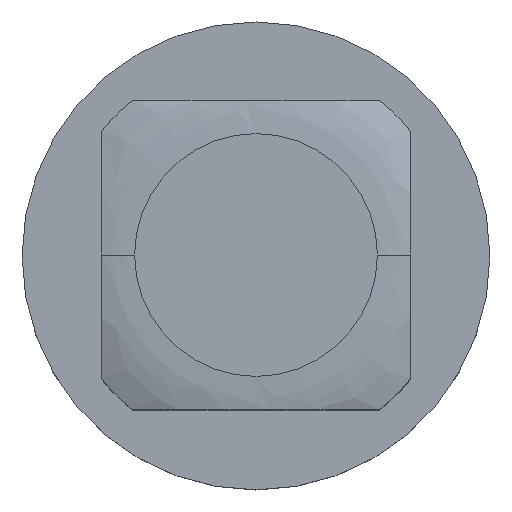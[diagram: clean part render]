
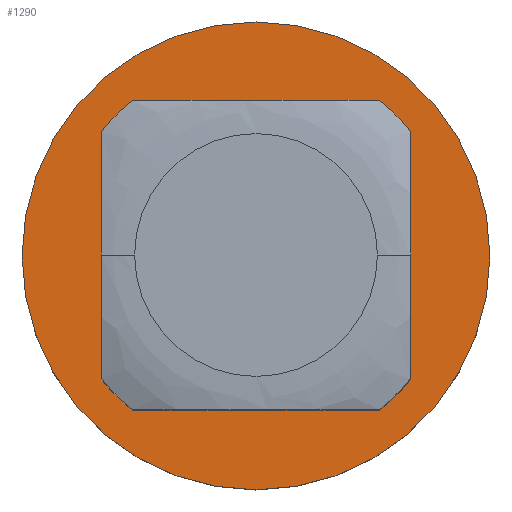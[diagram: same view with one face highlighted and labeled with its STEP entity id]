
A CAD part, top view. The second image highlights one B-rep face of the part: STEP entity #1290.
In plain terms, the highlighted planar face has unit normal (0, 0, 1).
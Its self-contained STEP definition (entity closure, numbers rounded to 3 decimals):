
#84 = ORIENTED_EDGE ( 'NONE', *, *, #926, .T. ) ;
#105 = CARTESIAN_POINT ( 'NONE',  ( 0., 0., 0.4 ) ) ;
#121 = DIRECTION ( 'NONE',  ( 1., 0., 0. ) ) ;
#148 = CIRCLE ( 'NONE', #273, 2.4 ) ;
#152 = CARTESIAN_POINT ( 'NONE',  ( 0., 0., 0.4 ) ) ;
#196 = DIRECTION ( 'NONE',  ( 1., 0., 0. ) ) ;
#205 = DIRECTION ( 'NONE',  ( 1., 0., 0. ) ) ;
#224 = VERTEX_POINT ( 'NONE', #392 ) ;
#273 = AXIS2_PLACEMENT_3D ( 'NONE', #152, #903, #1247 ) ;
#369 = ORIENTED_EDGE ( 'NONE', *, *, #770, .T. ) ;
#375 = AXIS2_PLACEMENT_3D ( 'NONE', #938, #662, #205 ) ;
#392 = CARTESIAN_POINT ( 'NONE',  ( 1.565, 0., 0.4 ) ) ;
#394 = DIRECTION ( 'NONE',  ( 1., 0., 0. ) ) ;
#395 = ORIENTED_EDGE ( 'NONE', *, *, #1367, .T. ) ;
#458 = CIRCLE ( 'NONE', #1368, 2.4 ) ;
#511 = DIRECTION ( 'NONE',  ( 0., 0., -1. ) ) ;
#539 = DIRECTION ( 'NONE',  ( 0., 0., -1. ) ) ;
#566 = EDGE_LOOP ( 'NONE', ( #84, #395 ) ) ;
#630 = VERTEX_POINT ( 'NONE', #1245 ) ;
#662 = DIRECTION ( 'NONE',  ( 0., 0., 1. ) ) ;
#681 = AXIS2_PLACEMENT_3D ( 'NONE', #1070, #539, #196 ) ;
#728 = VERTEX_POINT ( 'NONE', #1557 ) ;
#770 = EDGE_CURVE ( 'NONE', #728, #1143, #458, .T. ) ;
#802 = FACE_OUTER_BOUND ( 'NONE', #933, .T. ) ;
#903 = DIRECTION ( 'NONE',  ( 0., 0., 1. ) ) ;
#926 = EDGE_CURVE ( 'NONE', #630, #224, #1507, .T. ) ;
#933 = EDGE_LOOP ( 'NONE', ( #1432, #369 ) ) ;
#938 = CARTESIAN_POINT ( 'NONE',  ( 0., 0., 0.4 ) ) ;
#1003 = CARTESIAN_POINT ( 'NONE',  ( 0., 0., 0.4 ) ) ;
#1055 = PLANE ( 'NONE',  #375 ) ;
#1070 = CARTESIAN_POINT ( 'NONE',  ( 0., 0., 0.4 ) ) ;
#1138 = CARTESIAN_POINT ( 'NONE',  ( -2.4, 0., 0.4 ) ) ;
#1143 = VERTEX_POINT ( 'NONE', #1138 ) ;
#1166 = AXIS2_PLACEMENT_3D ( 'NONE', #1003, #511, #394 ) ;
#1170 = EDGE_CURVE ( 'NONE', #1143, #728, #148, .T. ) ;
#1231 = DIRECTION ( 'NONE',  ( 0., 0., 1. ) ) ;
#1245 = CARTESIAN_POINT ( 'NONE',  ( -1.565, 0., 0.4 ) ) ;
#1247 = DIRECTION ( 'NONE',  ( 1., 0., 0. ) ) ;
#1281 = FACE_BOUND ( 'NONE', #566, .T. ) ;
#1290 = ADVANCED_FACE ( 'NONE', ( #802, #1281 ), #1055, .T. ) ;
#1367 = EDGE_CURVE ( 'NONE', #224, #630, #1385, .T. ) ;
#1368 = AXIS2_PLACEMENT_3D ( 'NONE', #105, #1231, #121 ) ;
#1385 = CIRCLE ( 'NONE', #681, 1.565 ) ;
#1432 = ORIENTED_EDGE ( 'NONE', *, *, #1170, .T. ) ;
#1507 = CIRCLE ( 'NONE', #1166, 1.565 ) ;
#1557 = CARTESIAN_POINT ( 'NONE',  ( 2.4, 0., 0.4 ) ) ;
